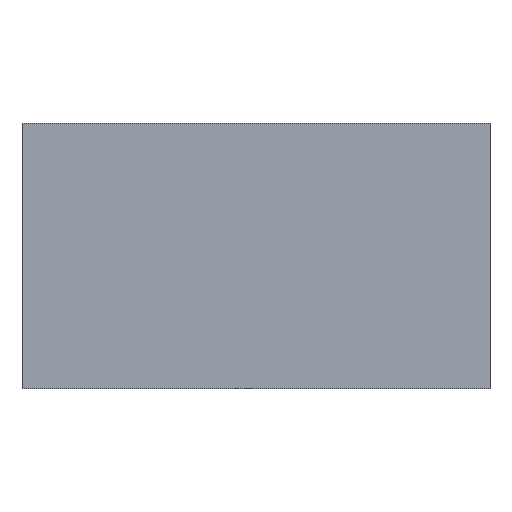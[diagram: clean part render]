
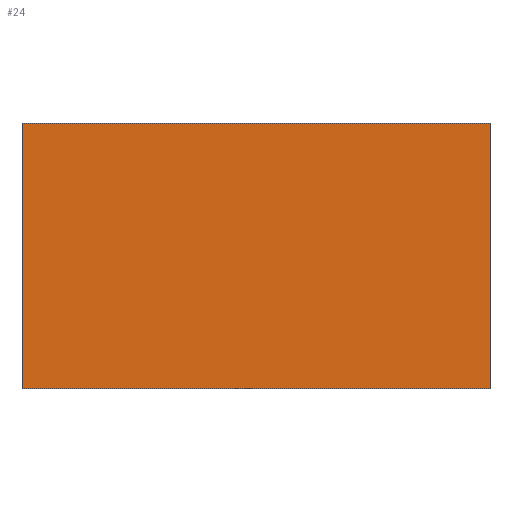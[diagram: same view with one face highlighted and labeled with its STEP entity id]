
A CAD part, front view. The second image highlights one B-rep face of the part: STEP entity #24.
In plain terms, the highlighted planar face has unit normal (0, -1, 0).
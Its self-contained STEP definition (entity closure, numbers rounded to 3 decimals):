
#24 = ADVANCED_FACE ( 'NONE', ( #1272 ), #1273, .F. ) ;
#39 = EDGE_CURVE ( 'NONE', #822, #1013, #1366, .T. ) ;
#81 = VERTEX_POINT ( 'NONE', #1676 ) ;
#154 = ORIENTED_EDGE ( 'NONE', *, *, #955, .T. ) ;
#222 = EDGE_CURVE ( 'NONE', #920, #81, #2611, .T. ) ;
#551 = ORIENTED_EDGE ( 'NONE', *, *, #222, .T. ) ;
#657 = ORIENTED_EDGE ( 'NONE', *, *, #2644, .F. ) ;
#822 = VERTEX_POINT ( 'NONE', #2491 ) ;
#869 = EDGE_LOOP ( 'NONE', ( #551, #657, #1066, #154 ) ) ;
#920 = VERTEX_POINT ( 'NONE', #2830 ) ;
#955 = EDGE_CURVE ( 'NONE', #822, #920, #2957, .T. ) ;
#1013 = VERTEX_POINT ( 'NONE', #3176 ) ;
#1066 = ORIENTED_EDGE ( 'NONE', *, *, #39, .F. ) ;
#1272 = FACE_OUTER_BOUND ( 'NONE', #869, .T. ) ;
#1273 = PLANE ( 'NONE',  #1274 ) ;
#1274 = AXIS2_PLACEMENT_3D ( 'NONE', #1275, #1276, #1279 ) ;
#1275 = CARTESIAN_POINT ( 'NONE',  ( 44., 0., 50. ) ) ;
#1276 = DIRECTION ( 'NONE',  ( 0., 1., 0. ) ) ;
#1279 = DIRECTION ( 'NONE',  ( 0., 0., 1. ) ) ;
#1366 = LINE ( 'NONE', #1367, #1368 ) ;
#1367 = CARTESIAN_POINT ( 'NONE',  ( 44., 0., 50. ) ) ;
#1368 = VECTOR ( 'NONE', #1369, 1000. ) ;
#1369 = DIRECTION ( 'NONE',  ( 1., 0., 0. ) ) ;
#1676 = CARTESIAN_POINT ( 'NONE',  ( 44., 0., 0. ) ) ;
#2152 = LINE ( 'NONE', #2153, #2154 ) ;
#2153 = CARTESIAN_POINT ( 'NONE',  ( 44., 0., 50. ) ) ;
#2154 = VECTOR ( 'NONE', #2155, 1000. ) ;
#2155 = DIRECTION ( 'NONE',  ( 0., 0., -1. ) ) ;
#2491 = CARTESIAN_POINT ( 'NONE',  ( -44., 0., 50. ) ) ;
#2611 = LINE ( 'NONE', #2612, #2613 ) ;
#2612 = CARTESIAN_POINT ( 'NONE',  ( 44., 0., 0. ) ) ;
#2613 = VECTOR ( 'NONE', #2614, 1000. ) ;
#2614 = DIRECTION ( 'NONE',  ( 1., 0., 0. ) ) ;
#2644 = EDGE_CURVE ( 'NONE', #1013, #81, #2152, .T. ) ;
#2830 = CARTESIAN_POINT ( 'NONE',  ( -44., 0., 0. ) ) ;
#2957 = LINE ( 'NONE', #2958, #2959 ) ;
#2958 = CARTESIAN_POINT ( 'NONE',  ( -44., 0., 50. ) ) ;
#2959 = VECTOR ( 'NONE', #2960, 1000. ) ;
#2960 = DIRECTION ( 'NONE',  ( 0., 0., -1. ) ) ;
#3176 = CARTESIAN_POINT ( 'NONE',  ( 44., 0., 50. ) ) ;
